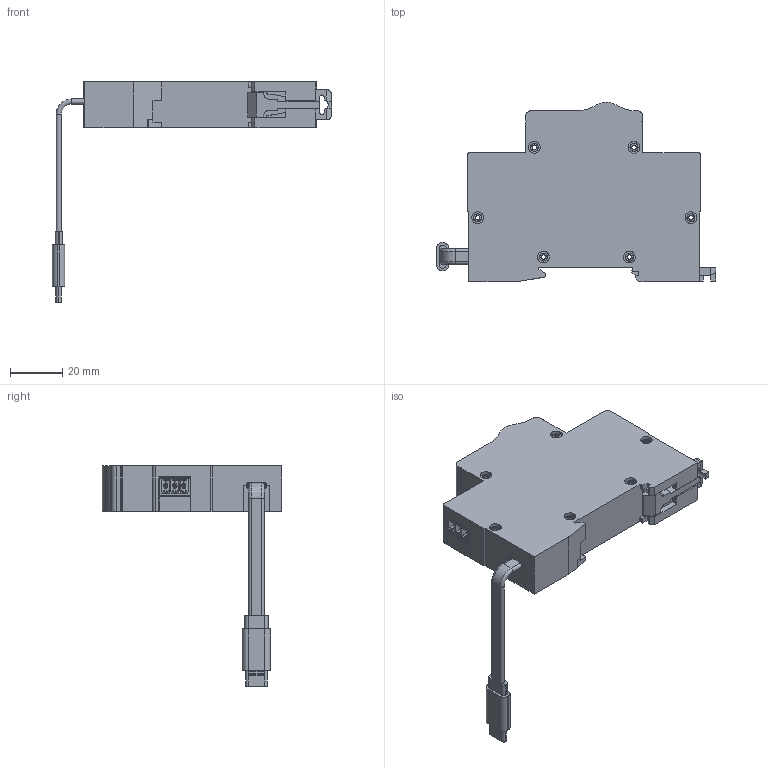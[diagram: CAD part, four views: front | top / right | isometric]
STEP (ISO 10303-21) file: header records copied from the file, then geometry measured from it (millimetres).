
FILE_DESCRIPTION (( 'STEP AP214' ), '1' );
FILE_NAME ('DF-P6 萇埭耀輸.step', '2023-12-13T06:23:16', ( '' ), ( '' ), 'SwSTEP 2.0', 'SolidWorks 2018', '' );
FILE_SCHEMA (( 'AUTOMOTIVE_DESIGN' ));
Length unit declared in the file: millimetre
Products named in the file (1): DF-P6 萇埭耀輸
Bounding box: 107.12 x 68.78 x 84.6 mm (x, y, z)
Volume: 35959.7 mm3; surface area: 58719 mm2
Topology: 114 solids, 116 shells, 7475 faces, 19366 edges, 12445 vertices
Faces by surface type: plane 3985, bspline 1659, cylinder 1353, torus 261, sphere 168, cone 49
Entity records: 410133 total; most frequent: CARTESIAN_POINT 154908, ORIENTED_EDGE 38280, DIRECTION 30335, EDGE_CURVE 19140, VERTEX_POINT 12389, VECTOR 12023, LINE 12023, AXIS2_PLACEMENT_3D 9156
